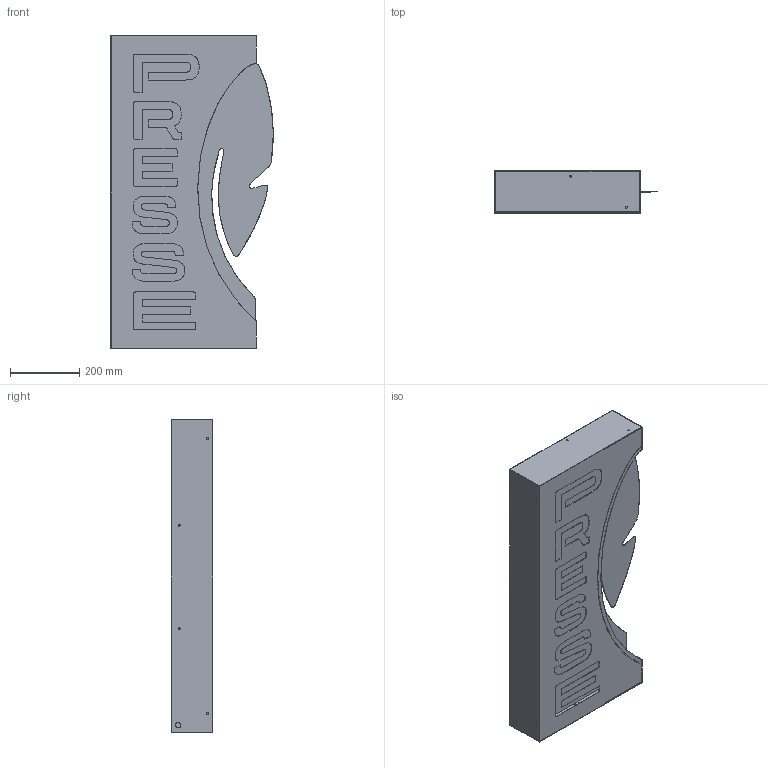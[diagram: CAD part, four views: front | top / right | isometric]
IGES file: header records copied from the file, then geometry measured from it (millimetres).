
Global section: file name: /Users/jacques/Desktop/DESIGN/2023/PLUME/PLUME-FINALE/MODELISATION-KIT/PLUME-FACADE.igs; native system: Rhinoceros ( Nov 10 2020 ); preprocessor: Trout Lake IGES 012 Nov 10 2020; date: 250311.174717; units: millimetre
Bounding box: 468.94 x 120 x 904 mm (x, y, z)
Surface area: 2606265.6 mm2 (no closed solid volume)
Topology: 0 solids, 0 shells, 334 faces, 3613 edges, 3419 vertices
Faces by surface type: bspline 334
